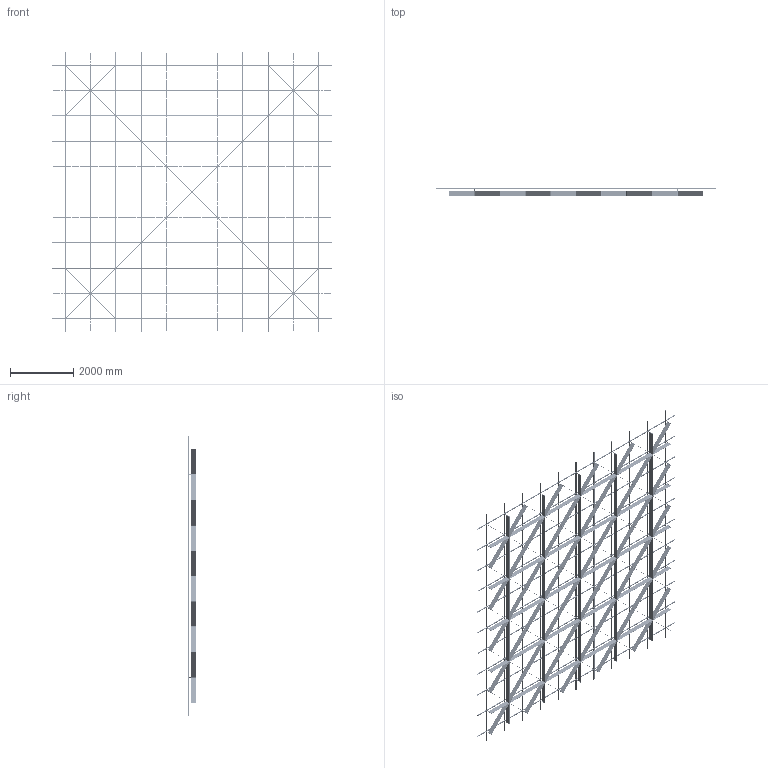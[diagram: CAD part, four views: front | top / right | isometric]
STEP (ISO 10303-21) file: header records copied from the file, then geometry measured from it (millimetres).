
FILE_DESCRIPTION (( 'STEP AP214' ), '1' );
FILE_NAME ('OPT_Var3.STEP', '2024-04-26T06:24:19', ( '' ), ( '' ), 'SwSTEP 2.0', 'SolidWorks 2020', '' );
FILE_SCHEMA (( 'AUTOMOTIVE_DESIGN' ));
Length unit declared in the file: millimetre
Products named in the file (5): OPT_Var3; Ñèñòåìà â çîíå 8000õ8000; Varp3; SS.SEMA.2400 - Ñèìà-ïðîôèëü; SS.SEMA.2400 - Ñèìà-ïðîôèëü — îáðåçàí 1600
Assembly tree (90 placements, depth 3):
  OPT_Var3
    Ñèñòåìà â çîíå 8000õ8000
      SS.SEMA.2400 - Ñèìà-ïðîôèëü  x66
      SS.SEMA.2400 - Ñèìà-ïðîôèëü — îáðåçàí 1600  x22
    Varp3
Bounding box: 8800 x 253 x 8800 mm (x, y, z)
Volume: 235441285 mm3; surface area: 92009075.8 mm2
Topology: 572 solids, 572 shells, 19396 faces, 53348 edges, 35096 vertices
Faces by surface type: cylinder 12506, plane 6890
Entity records: 89677 total; most frequent: CARTESIAN_POINT 26842, ORIENTED_EDGE 13544, DIRECTION 8146, EDGE_CURVE 6772, VERTEX_POINT 4504, B_SPLINE_CURVE_WITH_KNOTS 4488, AXIS2_PLACEMENT_3D 3824, EDGE_LOOP 3402
